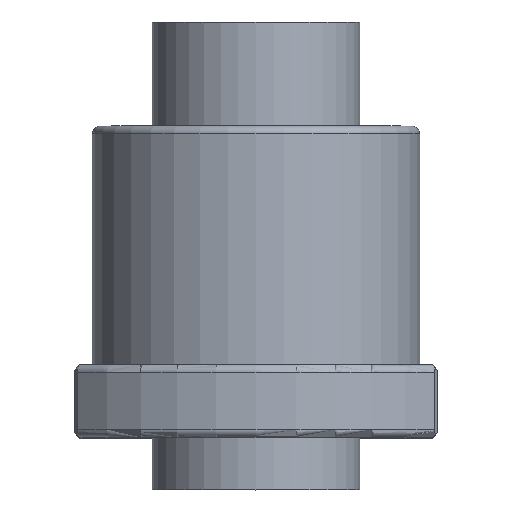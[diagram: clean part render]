
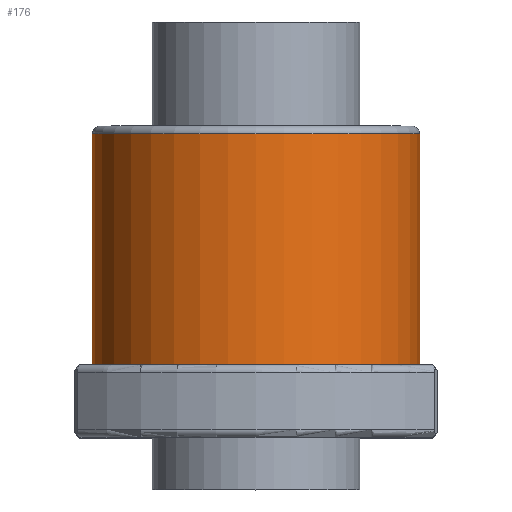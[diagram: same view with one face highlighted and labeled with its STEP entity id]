
A CAD part, top view. The second image highlights one B-rep face of the part: STEP entity #176.
In plain terms, the highlighted cylindrical face has radius 31.5 mm (diameter 63 mm), a full revolution.
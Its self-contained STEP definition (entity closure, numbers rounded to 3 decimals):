
#176=ADVANCED_FACE('',(#264,#265),#229,.T.);
#229=CYLINDRICAL_SURFACE('',#905,31.5);
#264=FACE_BOUND('',#362,.T.);
#265=FACE_BOUND('',#363,.T.);
#362=EDGE_LOOP('',(#486));
#363=EDGE_LOOP('',(#487));
#486=ORIENTED_EDGE('',*,*,#753,.T.);
#487=ORIENTED_EDGE('',*,*,#729,.F.);
#650=VERTEX_POINT('',#1262);
#674=VERTEX_POINT('',#1314);
#729=EDGE_CURVE('',#650,#650,#822,.T.);
#753=EDGE_CURVE('',#674,#674,#840,.T.);
#822=CIRCLE('',#882,31.5);
#840=CIRCLE('',#904,31.5);
#882=AXIS2_PLACEMENT_3D('',#1261,#1014,#1015);
#904=AXIS2_PLACEMENT_3D('',#1313,#1064,#1065);
#905=AXIS2_PLACEMENT_3D('',#1315,#1066,#1067);
#1014=DIRECTION('',(0.,-1.,0.));
#1015=DIRECTION('',(0.,0.,-1.));
#1064=DIRECTION('',(0.,-1.,0.));
#1065=DIRECTION('',(0.,0.,-1.));
#1066=DIRECTION('',(0.,-1.,0.));
#1067=DIRECTION('',(0.,0.,-1.));
#1261=CARTESIAN_POINT('',(0.,14.,0.));
#1262=CARTESIAN_POINT('',(0.,14.,-31.5));
#1313=CARTESIAN_POINT('',(0.,58.5,0.));
#1314=CARTESIAN_POINT('',(0.,58.5,-31.5));
#1315=CARTESIAN_POINT('',(0.,60.,0.));
